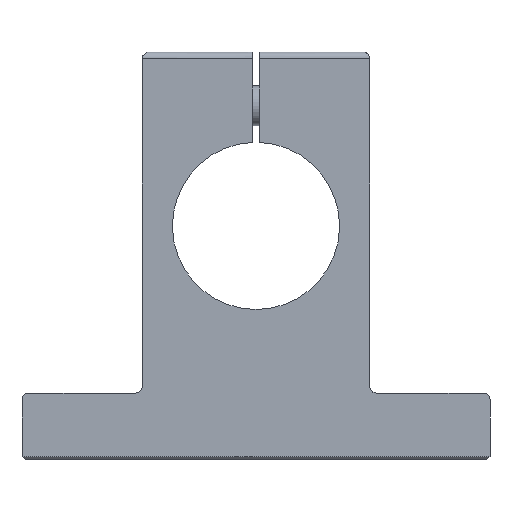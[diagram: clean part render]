
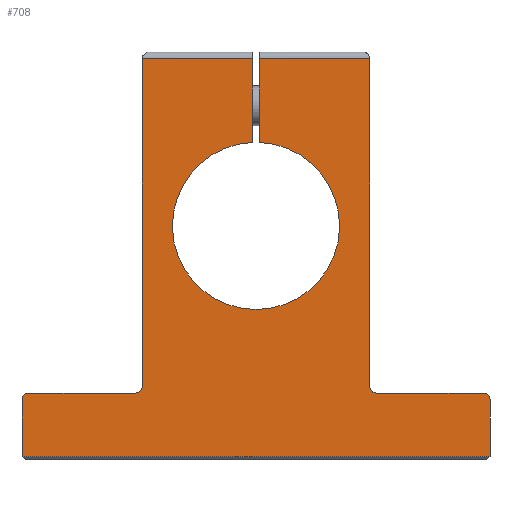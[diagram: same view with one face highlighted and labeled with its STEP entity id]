
A CAD part, left-side view. The second image highlights one B-rep face of the part: STEP entity #708.
In plain terms, the highlighted planar face has unit normal (-1, 0, 0).
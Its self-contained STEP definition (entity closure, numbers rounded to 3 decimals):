
#443=CARTESIAN_POINT('',(0.0,-1.,50.));
#444=VERTEX_POINT('',#443);
#452=CARTESIAN_POINT('',(0.0,-34.,50.));
#453=VERTEX_POINT('',#452);
#454=CARTESIAN_POINT('',(0.0,-1.,50.));
#455=DIRECTION('',(0.0,-1.0,0.0));
#456=VECTOR('',#455,33.);
#457=LINE('',#454,#456);
#458=EDGE_CURVE('',#444,#453,#457,.T.);
#548=CARTESIAN_POINT('',(0.0,-34.,-48.));
#549=VERTEX_POINT('',#548);
#550=CARTESIAN_POINT('',(0.0,-34.,50.));
#551=DIRECTION('',(0.0,0.0,-1.0));
#552=VECTOR('',#551,98.);
#553=LINE('',#550,#552);
#554=EDGE_CURVE('',#453,#549,#553,.T.);
#584=CARTESIAN_POINT('',(0.0,0.,-13.371));
#585=DIRECTION('',(1.0,0.0,0.0));
#586=DIRECTION('',(0.0,0.0,-1.0));
#587=AXIS2_PLACEMENT_3D('',#584,#585,#586);
#588=PLANE('',#587);
#589=ORIENTED_EDGE('',*,*,#458,.F.);
#590=CARTESIAN_POINT('',(0.0,-1.,24.98));
#591=VERTEX_POINT('',#590);
#592=CARTESIAN_POINT('',(0.0,-1.,24.98));
#593=DIRECTION('',(0.0,0.0,1.0));
#594=VECTOR('',#593,25.02);
#595=LINE('',#592,#594);
#596=EDGE_CURVE('',#591,#444,#595,.T.);
#597=ORIENTED_EDGE('',*,*,#596,.F.);
#598=CARTESIAN_POINT('',(0.0,1.,24.98));
#599=VERTEX_POINT('',#598);
#600=CARTESIAN_POINT('',(0.0,0.0,0.));
#601=DIRECTION('',(-1.0,0.0,0.0));
#602=DIRECTION('',(0.0,-1.0,0.0));
#603=AXIS2_PLACEMENT_3D('',#600,#601,#602);
#604=CIRCLE('',#603,25.0);
#605=EDGE_CURVE('',#599,#591,#604,.T.);
#606=ORIENTED_EDGE('',*,*,#605,.F.);
#607=CARTESIAN_POINT('',(0.0,1.,50.));
#608=VERTEX_POINT('',#607);
#609=CARTESIAN_POINT('',(0.0,1.,50.));
#610=DIRECTION('',(0.0,0.0,-1.0));
#611=VECTOR('',#610,25.02);
#612=LINE('',#609,#611);
#613=EDGE_CURVE('',#608,#599,#612,.T.);
#614=ORIENTED_EDGE('',*,*,#613,.F.);
#615=CARTESIAN_POINT('',(0.0,34.,50.));
#616=VERTEX_POINT('',#615);
#617=CARTESIAN_POINT('',(0.0,34.,50.));
#618=DIRECTION('',(0.0,-1.0,0.0));
#619=VECTOR('',#618,33.);
#620=LINE('',#617,#619);
#621=EDGE_CURVE('',#616,#608,#620,.T.);
#622=ORIENTED_EDGE('',*,*,#621,.F.);
#623=CARTESIAN_POINT('',(0.0,34.,-48.));
#624=VERTEX_POINT('',#623);
#625=CARTESIAN_POINT('',(0.0,34.,-48.));
#626=DIRECTION('',(0.0,0.0,1.0));
#627=VECTOR('',#626,98.);
#628=LINE('',#625,#627);
#629=EDGE_CURVE('',#624,#616,#628,.T.);
#630=ORIENTED_EDGE('',*,*,#629,.F.);
#631=CARTESIAN_POINT('',(0.0,36.0,-50.));
#632=VERTEX_POINT('',#631);
#633=CARTESIAN_POINT('',(0.0,36.0,-48.));
#634=DIRECTION('',(-1.,0.0,0.0));
#635=DIRECTION('',(0.0,-0.707,-0.707));
#636=AXIS2_PLACEMENT_3D('',#633,#634,#635);
#637=CIRCLE('',#636,2.);
#638=EDGE_CURVE('',#632,#624,#637,.T.);
#639=ORIENTED_EDGE('',*,*,#638,.F.);
#640=CARTESIAN_POINT('',(0.0,68.,-50.));
#641=VERTEX_POINT('',#640);
#642=CARTESIAN_POINT('',(0.0,68.,-50.));
#643=DIRECTION('',(0.0,-1.0,0.0));
#644=VECTOR('',#643,32.);
#645=LINE('',#642,#644);
#646=EDGE_CURVE('',#641,#632,#645,.T.);
#647=ORIENTED_EDGE('',*,*,#646,.F.);
#648=CARTESIAN_POINT('',(0.0,70.,-52.));
#649=VERTEX_POINT('',#648);
#650=CARTESIAN_POINT('',(0.0,68.,-52.));
#651=DIRECTION('',(1.0,0.0,0.0));
#652=DIRECTION('',(0.0,0.707,0.707));
#653=AXIS2_PLACEMENT_3D('',#650,#651,#652);
#654=CIRCLE('',#653,2.);
#655=EDGE_CURVE('',#649,#641,#654,.T.);
#656=ORIENTED_EDGE('',*,*,#655,.F.);
#657=CARTESIAN_POINT('',(0.0,70.,-69.0));
#658=VERTEX_POINT('',#657);
#659=CARTESIAN_POINT('',(0.0,70.,-69.0));
#660=DIRECTION('',(0.0,0.0,1.0));
#661=VECTOR('',#660,17.);
#662=LINE('',#659,#661);
#663=EDGE_CURVE('',#658,#649,#662,.T.);
#664=ORIENTED_EDGE('',*,*,#663,.F.);
#665=CARTESIAN_POINT('',(0.0,-70.,-69.0));
#666=VERTEX_POINT('',#665);
#667=CARTESIAN_POINT('',(0.0,-70.,-69.0));
#668=DIRECTION('',(0.0,1.0,0.0));
#669=VECTOR('',#668,140.);
#670=LINE('',#667,#669);
#671=EDGE_CURVE('',#666,#658,#670,.T.);
#672=ORIENTED_EDGE('',*,*,#671,.F.);
#673=CARTESIAN_POINT('',(0.0,-70.,-52.));
#674=VERTEX_POINT('',#673);
#675=CARTESIAN_POINT('',(0.0,-70.,-52.));
#676=DIRECTION('',(0.0,0.0,-1.0));
#677=VECTOR('',#676,17.);
#678=LINE('',#675,#677);
#679=EDGE_CURVE('',#674,#666,#678,.T.);
#680=ORIENTED_EDGE('',*,*,#679,.F.);
#681=CARTESIAN_POINT('',(0.0,-68.,-50.));
#682=VERTEX_POINT('',#681);
#683=CARTESIAN_POINT('',(0.0,-68.,-52.));
#684=DIRECTION('',(1.0,0.0,0.0));
#685=DIRECTION('',(0.0,-0.707,0.707));
#686=AXIS2_PLACEMENT_3D('',#683,#684,#685);
#687=CIRCLE('',#686,2.);
#688=EDGE_CURVE('',#682,#674,#687,.T.);
#689=ORIENTED_EDGE('',*,*,#688,.F.);
#690=CARTESIAN_POINT('',(0.0,-36.0,-50.));
#691=VERTEX_POINT('',#690);
#692=CARTESIAN_POINT('',(0.0,-36.0,-50.));
#693=DIRECTION('',(0.0,-1.0,0.0));
#694=VECTOR('',#693,32.);
#695=LINE('',#692,#694);
#696=EDGE_CURVE('',#691,#682,#695,.T.);
#697=ORIENTED_EDGE('',*,*,#696,.F.);
#698=CARTESIAN_POINT('',(0.0,-36.0,-48.));
#699=DIRECTION('',(-1.,0.0,0.0));
#700=DIRECTION('',(0.0,0.707,-0.707));
#701=AXIS2_PLACEMENT_3D('',#698,#699,#700);
#702=CIRCLE('',#701,2.);
#703=EDGE_CURVE('',#549,#691,#702,.T.);
#704=ORIENTED_EDGE('',*,*,#703,.F.);
#705=ORIENTED_EDGE('',*,*,#554,.F.);
#706=EDGE_LOOP('',(#589,#597,#606,#614,#622,#630,#639,#647,#656,#664,#672,#680,#689,#697,#704,#705));
#707=FACE_OUTER_BOUND('',#706,.T.);
#708=ADVANCED_FACE('',(#707),#588,.F.);
